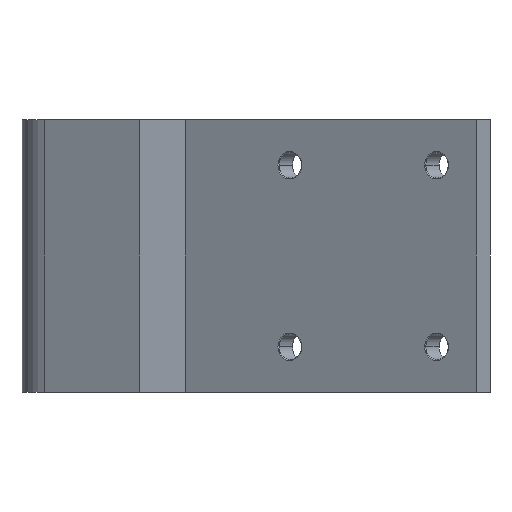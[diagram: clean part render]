
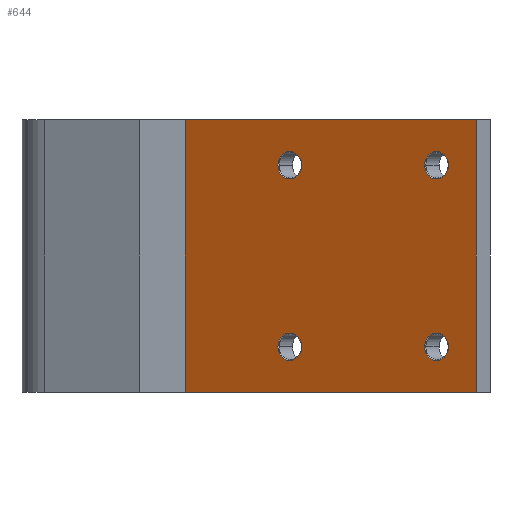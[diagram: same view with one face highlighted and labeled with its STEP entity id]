
A CAD part, left-side view. The second image highlights one B-rep face of the part: STEP entity #644.
In plain terms, the highlighted planar face has unit normal (-0.866, 0.5, 0).
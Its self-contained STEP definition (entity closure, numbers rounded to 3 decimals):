
#11 = CARTESIAN_POINT ( 'NONE',  ( -53.329, 0., 60. ) ) ;
#21 = VERTEX_POINT ( 'NONE', #1243 ) ;
#53 = CARTESIAN_POINT ( 'NONE',  ( -29.617, 41.071, 50. ) ) ;
#83 = LINE ( 'NONE', #3042, #947 ) ;
#112 = CARTESIAN_POINT ( 'NONE',  ( -39.997, 23.092, 60. ) ) ;
#175 = ORIENTED_EDGE ( 'NONE', *, *, #1297, .T. ) ;
#213 = AXIS2_PLACEMENT_3D ( 'NONE', #1814, #604, #1272 ) ;
#220 = ORIENTED_EDGE ( 'NONE', *, *, #729, .F. ) ;
#223 = DIRECTION ( 'NONE',  ( 0., 0., -1. ) ) ;
#254 = CIRCLE ( 'NONE', #2851, 3.025 ) ;
#281 = FACE_OUTER_BOUND ( 'NONE', #2474, .T. ) ;
#354 = DIRECTION ( 'NONE',  ( 0.5, 0.866, 0. ) ) ;
#407 = DIRECTION ( 'NONE',  ( 0.5, 0.866, 0. ) ) ;
#469 = VERTEX_POINT ( 'NONE', #1319 ) ;
#491 = EDGE_CURVE ( 'NONE', #2421, #583, #83, .T. ) ;
#568 = EDGE_CURVE ( 'NONE', #469, #2336, #2177, .T. ) ;
#583 = VERTEX_POINT ( 'NONE', #1124 ) ;
#604 = DIRECTION ( 'NONE',  ( 0.866, -0.5, 0. ) ) ;
#644 = ADVANCED_FACE ( 'NONE', ( #2263, #2975, #1758, #2466, #281 ), #2737, .F. ) ;
#665 = CARTESIAN_POINT ( 'NONE',  ( -39.997, 23.092, 0. ) ) ;
#729 = EDGE_CURVE ( 'NONE', #2421, #2442, #2282, .T. ) ;
#826 = EDGE_CURVE ( 'NONE', #2342, #1689, #254, .T. ) ;
#883 = CARTESIAN_POINT ( 'NONE',  ( -48.267, 8.769, 50. ) ) ;
#923 = VERTEX_POINT ( 'NONE', #2186 ) ;
#926 = CARTESIAN_POINT ( 'NONE',  ( -48.267, 8.769, 50. ) ) ;
#947 = VECTOR ( 'NONE', #1828, 1000. ) ;
#977 = CARTESIAN_POINT ( 'NONE',  ( -48.267, 8.769, 10. ) ) ;
#987 = ORIENTED_EDGE ( 'NONE', *, *, #1614, .T. ) ;
#1020 = ORIENTED_EDGE ( 'NONE', *, *, #2529, .T. ) ;
#1051 = DIRECTION ( 'NONE',  ( 0.866, -0.5, 0. ) ) ;
#1065 = VERTEX_POINT ( 'NONE', #2536 ) ;
#1124 = CARTESIAN_POINT ( 'NONE',  ( -16.329, 64.086, 0. ) ) ;
#1137 = DIRECTION ( 'NONE',  ( 0.5, 0.866, 0. ) ) ;
#1159 = AXIS2_PLACEMENT_3D ( 'NONE', #926, #1396, #1137 ) ;
#1176 = CIRCLE ( 'NONE', #1683, 3.025 ) ;
#1181 = EDGE_CURVE ( 'NONE', #2568, #2001, #2308, .T. ) ;
#1188 = AXIS2_PLACEMENT_3D ( 'NONE', #53, #1446, #2417 ) ;
#1243 = CARTESIAN_POINT ( 'NONE',  ( -53.329, 0., 0. ) ) ;
#1250 = CARTESIAN_POINT ( 'NONE',  ( -39.997, 23.092, 60. ) ) ;
#1272 = DIRECTION ( 'NONE',  ( 0.5, 0.866, 0. ) ) ;
#1281 = ORIENTED_EDGE ( 'NONE', *, *, #1617, .F. ) ;
#1297 = EDGE_CURVE ( 'NONE', #583, #21, #1859, .T. ) ;
#1319 = CARTESIAN_POINT ( 'NONE',  ( -46.754, 11.388, 10. ) ) ;
#1333 = ORIENTED_EDGE ( 'NONE', *, *, #826, .T. ) ;
#1373 = CARTESIAN_POINT ( 'NONE',  ( -31.129, 38.452, 50. ) ) ;
#1378 = CIRCLE ( 'NONE', #213, 3.025 ) ;
#1396 = DIRECTION ( 'NONE',  ( 0.866, -0.5, 0. ) ) ;
#1446 = DIRECTION ( 'NONE',  ( 0.866, -0.5, 0. ) ) ;
#1468 = EDGE_CURVE ( 'NONE', #1689, #2342, #1897, .T. ) ;
#1488 = CARTESIAN_POINT ( 'NONE',  ( -49.779, 6.149, 50. ) ) ;
#1512 = DIRECTION ( 'NONE',  ( 0.866, -0.5, 0. ) ) ;
#1601 = DIRECTION ( 'NONE',  ( 0.5, 0.866, 0. ) ) ;
#1604 = ORIENTED_EDGE ( 'NONE', *, *, #491, .T. ) ;
#1614 = EDGE_CURVE ( 'NONE', #2001, #2568, #2844, .T. ) ;
#1617 = EDGE_CURVE ( 'NONE', #2442, #21, #2880, .T. ) ;
#1624 = AXIS2_PLACEMENT_3D ( 'NONE', #1250, #1051, #2247 ) ;
#1649 = ORIENTED_EDGE ( 'NONE', *, *, #2248, .T. ) ;
#1671 = VECTOR ( 'NONE', #2297, 1000. ) ;
#1683 = AXIS2_PLACEMENT_3D ( 'NONE', #1966, #1512, #1764 ) ;
#1689 = VERTEX_POINT ( 'NONE', #2365 ) ;
#1758 = FACE_BOUND ( 'NONE', #2350, .T. ) ;
#1764 = DIRECTION ( 'NONE',  ( 0.5, 0.866, 0. ) ) ;
#1814 = CARTESIAN_POINT ( 'NONE',  ( -48.267, 8.769, 10. ) ) ;
#1828 = DIRECTION ( 'NONE',  ( 0., 0., -1. ) ) ;
#1839 = DIRECTION ( 'NONE',  ( 0.866, -0.5, 0. ) ) ;
#1859 = LINE ( 'NONE', #665, #3128 ) ;
#1897 = CIRCLE ( 'NONE', #1188, 3.025 ) ;
#1909 = ORIENTED_EDGE ( 'NONE', *, *, #1468, .T. ) ;
#1919 = DIRECTION ( 'NONE',  ( 0.866, -0.5, 0. ) ) ;
#1956 = ORIENTED_EDGE ( 'NONE', *, *, #2565, .T. ) ;
#1966 = CARTESIAN_POINT ( 'NONE',  ( -29.617, 41.071, 10. ) ) ;
#2001 = VERTEX_POINT ( 'NONE', #1488 ) ;
#2056 = CARTESIAN_POINT ( 'NONE',  ( -29.617, 41.071, 50. ) ) ;
#2075 = AXIS2_PLACEMENT_3D ( 'NONE', #977, #2081, #407 ) ;
#2081 = DIRECTION ( 'NONE',  ( 0.866, -0.5, 0. ) ) ;
#2092 = EDGE_LOOP ( 'NONE', ( #1333, #1909 ) ) ;
#2102 = ORIENTED_EDGE ( 'NONE', *, *, #1181, .T. ) ;
#2109 = CARTESIAN_POINT ( 'NONE',  ( -53.329, 0., 60. ) ) ;
#2177 = CIRCLE ( 'NONE', #2075, 3.025 ) ;
#2179 = CARTESIAN_POINT ( 'NONE',  ( -16.329, 64.086, 60. ) ) ;
#2186 = CARTESIAN_POINT ( 'NONE',  ( -31.129, 38.452, 10. ) ) ;
#2196 = EDGE_LOOP ( 'NONE', ( #987, #2102 ) ) ;
#2247 = DIRECTION ( 'NONE',  ( 0.5, 0.866, 0. ) ) ;
#2248 = EDGE_CURVE ( 'NONE', #1065, #923, #2663, .T. ) ;
#2263 = FACE_BOUND ( 'NONE', #2196, .T. ) ;
#2282 = LINE ( 'NONE', #112, #1671 ) ;
#2297 = DIRECTION ( 'NONE',  ( -0.5, -0.866, 0. ) ) ;
#2299 = ORIENTED_EDGE ( 'NONE', *, *, #568, .T. ) ;
#2308 = CIRCLE ( 'NONE', #2520, 3.025 ) ;
#2325 = EDGE_LOOP ( 'NONE', ( #1956, #2299 ) ) ;
#2336 = VERTEX_POINT ( 'NONE', #2587 ) ;
#2342 = VERTEX_POINT ( 'NONE', #1373 ) ;
#2350 = EDGE_LOOP ( 'NONE', ( #1020, #1649 ) ) ;
#2365 = CARTESIAN_POINT ( 'NONE',  ( -28.104, 43.691, 50. ) ) ;
#2379 = VECTOR ( 'NONE', #223, 1000. ) ;
#2386 = DIRECTION ( 'NONE',  ( 0.5, 0.866, 0. ) ) ;
#2417 = DIRECTION ( 'NONE',  ( 0.5, 0.866, 0. ) ) ;
#2421 = VERTEX_POINT ( 'NONE', #2179 ) ;
#2442 = VERTEX_POINT ( 'NONE', #11 ) ;
#2466 = FACE_BOUND ( 'NONE', #2092, .T. ) ;
#2474 = EDGE_LOOP ( 'NONE', ( #175, #1281, #220, #1604 ) ) ;
#2520 = AXIS2_PLACEMENT_3D ( 'NONE', #883, #1919, #2386 ) ;
#2529 = EDGE_CURVE ( 'NONE', #923, #1065, #1176, .T. ) ;
#2536 = CARTESIAN_POINT ( 'NONE',  ( -28.104, 43.691, 10. ) ) ;
#2539 = DIRECTION ( 'NONE',  ( 0.866, -0.5, 0. ) ) ;
#2565 = EDGE_CURVE ( 'NONE', #2336, #469, #1378, .T. ) ;
#2568 = VERTEX_POINT ( 'NONE', #3013 ) ;
#2585 = DIRECTION ( 'NONE',  ( -0.5, -0.866, 0. ) ) ;
#2587 = CARTESIAN_POINT ( 'NONE',  ( -49.779, 6.149, 10. ) ) ;
#2610 = AXIS2_PLACEMENT_3D ( 'NONE', #2781, #2539, #354 ) ;
#2663 = CIRCLE ( 'NONE', #2610, 3.025 ) ;
#2737 = PLANE ( 'NONE',  #1624 ) ;
#2781 = CARTESIAN_POINT ( 'NONE',  ( -29.617, 41.071, 10. ) ) ;
#2844 = CIRCLE ( 'NONE', #1159, 3.025 ) ;
#2851 = AXIS2_PLACEMENT_3D ( 'NONE', #2056, #1839, #1601 ) ;
#2880 = LINE ( 'NONE', #2109, #2379 ) ;
#2975 = FACE_BOUND ( 'NONE', #2325, .T. ) ;
#3013 = CARTESIAN_POINT ( 'NONE',  ( -46.754, 11.388, 50. ) ) ;
#3042 = CARTESIAN_POINT ( 'NONE',  ( -16.329, 64.086, 60. ) ) ;
#3128 = VECTOR ( 'NONE', #2585, 1000. ) ;
